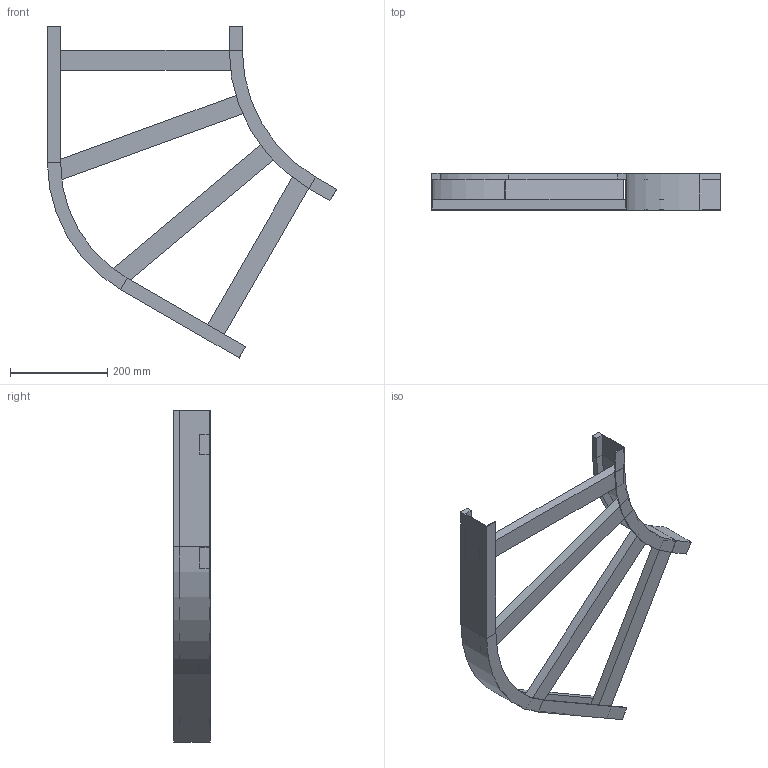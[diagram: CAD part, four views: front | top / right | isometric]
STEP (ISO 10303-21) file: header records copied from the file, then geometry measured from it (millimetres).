
FILE_DESCRIPTION (( 'STEP AP214' ), '1' );
FILE_NAME ('B2_13B3C400.step', '2025-02-21T15:21:46', ( '' ), ( '' ), 'SwSTEP 2.0', 'SolidWorks 2023', '' );
FILE_SCHEMA (( 'AUTOMOTIVE_DESIGN' ));
Length unit declared in the file: millimetre
Products named in the file (5): TRAVERSINO_400; TRAVERSINO_500_SCANTONATO; B2_13B3C400; B2_LONGH.ESTERNO 60°_H75_R300+400; B2_LONGH.INTERNO 60°_H75_R300
Assembly tree (6 placements, depth 2):
  B2_13B3C400
    B2_LONGH.INTERNO 60°_H75_R300
    B2_LONGH.ESTERNO 60°_H75_R300+400
    TRAVERSINO_400  x2
    TRAVERSINO_500_SCANTONATO  x2
Bounding box: 593.3 x 75 x 681.22 mm (x, y, z)
Volume: 1859713.8 mm3; surface area: 514854.9 mm2
Topology: 6 solids, 6 shells, 76 faces, 160 edges, 96 vertices
Faces by surface type: plane 68, cylinder 8
Entity records: 1830 total; most frequent: DIRECTION 298, CARTESIAN_POINT 289, ORIENTED_EDGE 272, EDGE_CURVE 136, LINE 120, VECTOR 120, AXIS2_PLACEMENT_3D 89, VERTEX_POINT 80
